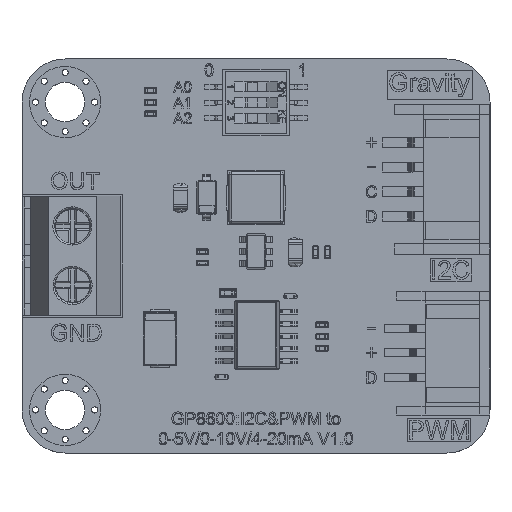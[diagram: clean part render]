
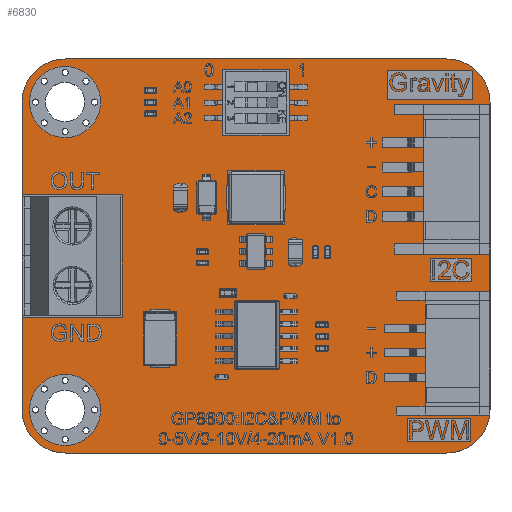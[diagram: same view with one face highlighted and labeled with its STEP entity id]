
A CAD part, top view. The second image highlights one B-rep face of the part: STEP entity #6830.
In plain terms, the highlighted planar face has unit normal (0, 0, 1).
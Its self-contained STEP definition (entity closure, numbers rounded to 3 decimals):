
#443=TRIMMED_CURVE($,#733,(#117832),(#117833),.T.,.CARTESIAN.);
#444=TRIMMED_CURVE($,#734,(#117843),(#117844),.T.,.CARTESIAN.);
#445=TRIMMED_CURVE($,#735,(#117846),(#117847),.T.,.CARTESIAN.);
#446=TRIMMED_CURVE($,#736,(#117849),(#117850),.T.,.CARTESIAN.);
#447=TRIMMED_CURVE($,#737,(#117852),(#117853),.T.,.CARTESIAN.);
#448=TRIMMED_CURVE($,#738,(#117855),(#117856),.T.,.CARTESIAN.);
#455=TRIMMED_CURVE($,#745,(#117938),(#117939),.T.,.CARTESIAN.);
#457=TRIMMED_CURVE($,#747,(#117946),(#117947),.T.,.CARTESIAN.);
#733=CIRCLE('',#103376,3.5);
#734=CIRCLE('',#103377,3.5);
#735=CIRCLE('',#103378,3.5);
#736=CIRCLE('',#103379,3.5);
#737=CIRCLE('',#103380,0.55);
#738=CIRCLE('',#103381,0.55);
#745=CIRCLE('',#103388,0.55);
#747=CIRCLE('',#103390,0.55);
#1429=FACE_BOUND('',#19078,.T.);
#1430=FACE_BOUND('',#19079,.T.);
#1431=FACE_BOUND('',#19080,.T.);
#1432=FACE_BOUND('',#19081,.T.);
#6830=ADVANCED_FACE('',(#12935,#1429,#1430,#1431,#1432),#98137,.T.);
#12935=FACE_OUTER_BOUND('',#19077,.T.);
#19077=EDGE_LOOP('',(#26844,#26845,#26846,#26847,#26848,#26849,#26850,#26851));
#19078=EDGE_LOOP('',(#26852,#26853));
#19079=EDGE_LOOP('',(#26854,#26855));
#19080=EDGE_LOOP('',(#26856,#26857));
#19081=EDGE_LOOP('',(#26858,#26859));
#26844=ORIENTED_EDGE('',*,*,#57723,.F.);
#26845=ORIENTED_EDGE('',*,*,#57724,.F.);
#26846=ORIENTED_EDGE('',*,*,#57728,.T.);
#26847=ORIENTED_EDGE('',*,*,#57726,.T.);
#26848=ORIENTED_EDGE('',*,*,#57730,.T.);
#26849=ORIENTED_EDGE('',*,*,#57727,.T.);
#26850=ORIENTED_EDGE('',*,*,#57729,.T.);
#26851=ORIENTED_EDGE('',*,*,#57725,.F.);
#26852=ORIENTED_EDGE('',*,*,#57731,.T.);
#26853=ORIENTED_EDGE('',*,*,#57760,.T.);
#26854=ORIENTED_EDGE('',*,*,#57732,.T.);
#26855=ORIENTED_EDGE('',*,*,#57763,.T.);
#26856=ORIENTED_EDGE('',*,*,#57753,.T.);
#26857=ORIENTED_EDGE('',*,*,#57766,.T.);
#26858=ORIENTED_EDGE('',*,*,#57756,.T.);
#26859=ORIENTED_EDGE('',*,*,#57769,.T.);
#57723=EDGE_CURVE('',#88007,#88008,#443,.T.);
#57724=EDGE_CURVE('',#88009,#88007,#73511,.T.);
#57725=EDGE_CURVE('',#88008,#88010,#73512,.T.);
#57726=EDGE_CURVE('',#88011,#88012,#73513,.T.);
#57727=EDGE_CURVE('',#88013,#88014,#73514,.T.);
#57728=EDGE_CURVE('',#88009,#88011,#444,.T.);
#57729=EDGE_CURVE('',#88014,#88010,#445,.T.);
#57730=EDGE_CURVE('',#88012,#88013,#446,.T.);
#57731=EDGE_CURVE('',#88015,#88031,#447,.T.);
#57732=EDGE_CURVE('',#88016,#88033,#448,.T.);
#57753=EDGE_CURVE('',#88027,#88036,#73529,.T.);
#57756=EDGE_CURVE('',#88029,#88038,#73532,.T.);
#57760=EDGE_CURVE('',#88031,#88015,#455,.T.);
#57763=EDGE_CURVE('',#88033,#88016,#457,.T.);
#57766=EDGE_CURVE('',#88036,#88027,#73538,.T.);
#57769=EDGE_CURVE('',#88038,#88029,#73541,.T.);
#73511=B_SPLINE_CURVE_WITH_KNOTS('',1,(#117834,#117835),.UNSPECIFIED.,.F.,
 .F.,(2,2),(0.,31.),.UNSPECIFIED.);
#73512=B_SPLINE_CURVE_WITH_KNOTS('',1,(#117836,#117837),.UNSPECIFIED.,.F.,
 .F.,(2,2),(0.,25.),.UNSPECIFIED.);
#73513=B_SPLINE_CURVE_WITH_KNOTS('',1,(#117838,#117839),.UNSPECIFIED.,.F.,
 .F.,(2,2),(0.,25.),.UNSPECIFIED.);
#73514=B_SPLINE_CURVE_WITH_KNOTS('',1,(#117840,#117841),.UNSPECIFIED.,.F.,
 .F.,(2,2),(0.,31.),.UNSPECIFIED.);
#73529=B_SPLINE_CURVE_WITH_KNOTS('',3,(#117903,#117904,#117905,#117906,
#117907,#117908,#117909),.UNSPECIFIED.,.F.,.F.,(4,3,4),(0.,1.,2.),
 .UNSPECIFIED.);
#73532=B_SPLINE_CURVE_WITH_KNOTS('',3,(#117919,#117920,#117921,#117922,
#117923,#117924,#117925),.UNSPECIFIED.,.F.,.F.,(4,3,4),(0.,1.,2.),
 .UNSPECIFIED.);
#73538=B_SPLINE_CURVE_WITH_KNOTS('',3,(#117953,#117954,#117955,#117956,
#117957,#117958,#117959),.UNSPECIFIED.,.F.,.F.,(4,3,4),(2.,3.,4.),
 .UNSPECIFIED.);
#73541=B_SPLINE_CURVE_WITH_KNOTS('',3,(#117969,#117970,#117971,#117972,
#117973,#117974,#117975),.UNSPECIFIED.,.F.,.F.,(4,3,4),(2.,3.,4.),
 .UNSPECIFIED.);
#88007=VERTEX_POINT('',#117799);
#88008=VERTEX_POINT('',#117800);
#88009=VERTEX_POINT('',#117801);
#88010=VERTEX_POINT('',#117802);
#88011=VERTEX_POINT('',#117803);
#88012=VERTEX_POINT('',#117804);
#88013=VERTEX_POINT('',#117805);
#88014=VERTEX_POINT('',#117806);
#88015=VERTEX_POINT('',#117807);
#88016=VERTEX_POINT('',#117808);
#88027=VERTEX_POINT('',#117819);
#88029=VERTEX_POINT('',#117821);
#88031=VERTEX_POINT('',#117823);
#88033=VERTEX_POINT('',#117825);
#88036=VERTEX_POINT('',#117828);
#88038=VERTEX_POINT('',#117830);
#98137=PLANE('',#103358);
#103358=AXIS2_PLACEMENT_3D('',#117781,#109262,$);
#103376=AXIS2_PLACEMENT_3D($,#117831,#109280,#109281);
#103377=AXIS2_PLACEMENT_3D($,#117842,#109282,#109283);
#103378=AXIS2_PLACEMENT_3D($,#117845,#109284,#109285);
#103379=AXIS2_PLACEMENT_3D($,#117848,#109286,#109287);
#103380=AXIS2_PLACEMENT_3D($,#117851,#109288,#109289);
#103381=AXIS2_PLACEMENT_3D($,#117854,#109290,#109291);
#103388=AXIS2_PLACEMENT_3D($,#117937,#109304,#109305);
#103390=AXIS2_PLACEMENT_3D($,#117945,#109308,#109309);
#109262=DIRECTION('',(0.,0.,1.));
#109280=DIRECTION('',(0.,0.,-1.));
#109281=DIRECTION('',(0.,1.,0.));
#109282=DIRECTION('',(0.,0.,1.));
#109283=DIRECTION('',(0.,1.,0.));
#109284=DIRECTION('',(0.,0.,1.));
#109285=DIRECTION('',(0.,-1.,0.));
#109286=DIRECTION('',(0.,0.,1.));
#109287=DIRECTION('',(-1.,0.,0.));
#109288=DIRECTION('',(0.,0.,-1.));
#109289=DIRECTION('',(0.,-1.,0.));
#109290=DIRECTION('',(0.,0.,-1.));
#109291=DIRECTION('',(0.,-1.,0.));
#109304=DIRECTION('',(0.,0.,-1.));
#109305=DIRECTION('',(0.,1.,0.));
#109308=DIRECTION('',(0.,0.,-1.));
#109309=DIRECTION('',(0.,1.,0.));
#117781=CARTESIAN_POINT('',(-22.8,-19.2,0.));
#117799=CARTESIAN_POINT('',(15.5,16.,0.));
#117800=CARTESIAN_POINT('',(19.,12.5,0.));
#117801=CARTESIAN_POINT('',(-15.5,16.,0.));
#117802=CARTESIAN_POINT('',(19.,-12.5,0.));
#117803=CARTESIAN_POINT('',(-19.,12.5,0.));
#117804=CARTESIAN_POINT('',(-19.,-12.5,0.));
#117805=CARTESIAN_POINT('',(-15.5,-16.,0.));
#117806=CARTESIAN_POINT('',(15.5,-16.,0.));
#117807=CARTESIAN_POINT('',(-14.65,-3.09,0.));
#117808=CARTESIAN_POINT('',(-14.65,1.99,0.));
#117819=CARTESIAN_POINT('',(-15.5,-9.614,0.));
#117821=CARTESIAN_POINT('',(-15.5,15.386,0.));
#117823=CARTESIAN_POINT('',(-14.65,-1.99,0.));
#117825=CARTESIAN_POINT('',(-14.65,3.09,0.));
#117828=CARTESIAN_POINT('',(-15.5,-15.386,0.));
#117830=CARTESIAN_POINT('',(-15.5,9.614,0.));
#117831=CARTESIAN_POINT('',(15.5,12.5,0.));
#117832=CARTESIAN_POINT('',(15.5,16.,0.));
#117833=CARTESIAN_POINT('',(19.,12.5,0.));
#117834=CARTESIAN_POINT('',(-15.5,16.,0.));
#117835=CARTESIAN_POINT('',(15.5,16.,0.));
#117836=CARTESIAN_POINT('',(19.,12.5,0.));
#117837=CARTESIAN_POINT('',(19.,-12.5,0.));
#117838=CARTESIAN_POINT('',(-19.,12.5,0.));
#117839=CARTESIAN_POINT('',(-19.,-12.5,0.));
#117840=CARTESIAN_POINT('',(-15.5,-16.,0.));
#117841=CARTESIAN_POINT('',(15.5,-16.,0.));
#117842=CARTESIAN_POINT('',(-15.5,12.5,0.));
#117843=CARTESIAN_POINT('',(-15.5,16.,0.));
#117844=CARTESIAN_POINT('',(-19.,12.5,0.));
#117845=CARTESIAN_POINT('',(15.5,-12.5,0.));
#117846=CARTESIAN_POINT('',(15.5,-16.,0.));
#117847=CARTESIAN_POINT('',(19.,-12.5,0.));
#117848=CARTESIAN_POINT('',(-15.5,-12.5,0.));
#117849=CARTESIAN_POINT('',(-19.,-12.5,0.));
#117850=CARTESIAN_POINT('',(-15.5,-16.,0.));
#117851=CARTESIAN_POINT('',(-14.65,-2.54,0.));
#117852=CARTESIAN_POINT('',(-14.65,-3.09,0.));
#117853=CARTESIAN_POINT('',(-14.65,-1.99,0.));
#117854=CARTESIAN_POINT('',(-14.65,2.54,0.));
#117855=CARTESIAN_POINT('',(-14.65,1.99,0.));
#117856=CARTESIAN_POINT('',(-14.65,3.09,0.));
#117903=CARTESIAN_POINT('',(-15.5,-9.614,0.));
#117904=CARTESIAN_POINT('',(-13.905,-9.614,0.));
#117905=CARTESIAN_POINT('',(-12.613,-10.906,0.));
#117906=CARTESIAN_POINT('',(-12.613,-12.501,0.));
#117907=CARTESIAN_POINT('',(-12.613,-14.094,0.));
#117908=CARTESIAN_POINT('',(-13.905,-15.386,0.));
#117909=CARTESIAN_POINT('',(-15.5,-15.386,0.));
#117919=CARTESIAN_POINT('',(-15.5,15.386,0.));
#117920=CARTESIAN_POINT('',(-13.905,15.386,0.));
#117921=CARTESIAN_POINT('',(-12.613,14.094,0.));
#117922=CARTESIAN_POINT('',(-12.613,12.499,0.));
#117923=CARTESIAN_POINT('',(-12.613,10.906,0.));
#117924=CARTESIAN_POINT('',(-13.905,9.614,0.));
#117925=CARTESIAN_POINT('',(-15.5,9.614,0.));
#117937=CARTESIAN_POINT('',(-14.65,-2.54,0.));
#117938=CARTESIAN_POINT('',(-14.65,-1.99,0.));
#117939=CARTESIAN_POINT('',(-14.65,-3.09,0.));
#117945=CARTESIAN_POINT('',(-14.65,2.54,0.));
#117946=CARTESIAN_POINT('',(-14.65,3.09,0.));
#117947=CARTESIAN_POINT('',(-14.65,1.99,0.));
#117953=CARTESIAN_POINT('',(-15.5,-15.386,0.));
#117954=CARTESIAN_POINT('',(-17.095,-15.386,0.));
#117955=CARTESIAN_POINT('',(-18.387,-14.094,0.));
#117956=CARTESIAN_POINT('',(-18.387,-12.501,0.));
#117957=CARTESIAN_POINT('',(-18.387,-10.906,0.));
#117958=CARTESIAN_POINT('',(-17.095,-9.614,0.));
#117959=CARTESIAN_POINT('',(-15.5,-9.614,0.));
#117969=CARTESIAN_POINT('',(-15.5,9.614,0.));
#117970=CARTESIAN_POINT('',(-17.095,9.614,0.));
#117971=CARTESIAN_POINT('',(-18.387,10.906,0.));
#117972=CARTESIAN_POINT('',(-18.387,12.499,0.));
#117973=CARTESIAN_POINT('',(-18.387,14.094,0.));
#117974=CARTESIAN_POINT('',(-17.095,15.386,0.));
#117975=CARTESIAN_POINT('',(-15.5,15.386,0.));
